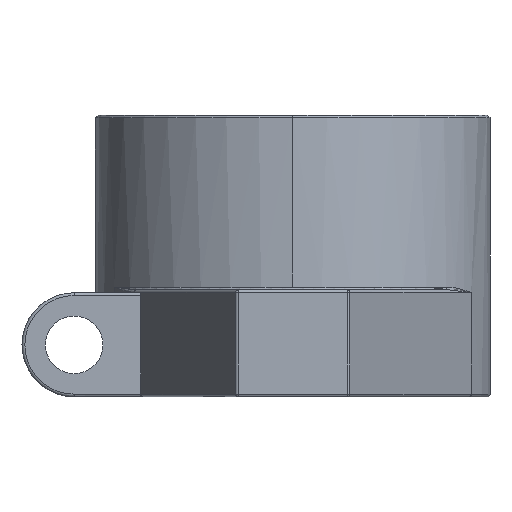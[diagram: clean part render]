
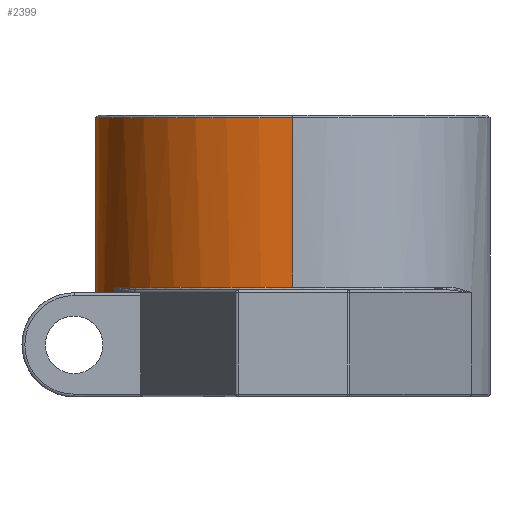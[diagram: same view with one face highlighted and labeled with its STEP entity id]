
A CAD part, left-side view. The second image highlights one B-rep face of the part: STEP entity #2399.
In plain terms, the highlighted cylindrical face has radius 35 mm (diameter 70 mm), a partial arc.
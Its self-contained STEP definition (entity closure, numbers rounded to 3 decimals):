
#135 = VECTOR ( 'NONE', #1907, 1000. ) ;
#182 = ORIENTED_EDGE ( 'NONE', *, *, #1619, .T. ) ;
#249 = VECTOR ( 'NONE', #274, 1000. ) ;
#273 = EDGE_LOOP ( 'NONE', ( #1935, #182, #901, #918, #2214, #690 ) ) ;
#274 = DIRECTION ( 'NONE',  ( 0., 0., -1. ) ) ;
#286 = DIRECTION ( 'NONE',  ( -1., 0., 0. ) ) ;
#298 = CARTESIAN_POINT ( 'NONE',  ( 0., 0., 19.5 ) ) ;
#326 = DIRECTION ( 'NONE',  ( 1., 0., 0. ) ) ;
#339 = DIRECTION ( 'NONE',  ( 0., 0., 1. ) ) ;
#365 = DIRECTION ( 'NONE',  ( 0., -1., 0. ) ) ;
#371 = EDGE_CURVE ( 'NONE', #2237, #1760, #1918, .T. ) ;
#481 = DIRECTION ( 'NONE',  ( 0., 0., -1. ) ) ;
#568 = CIRCLE ( 'NONE', #1284, 35. ) ;
#593 = DIRECTION ( 'NONE',  ( 0., 0., 1. ) ) ;
#599 = LINE ( 'NONE', #2329, #2591 ) ;
#674 = DIRECTION ( 'NONE',  ( 0., 0., -1. ) ) ;
#685 = DIRECTION ( 'NONE',  ( 1., 0., 0. ) ) ;
#690 = ORIENTED_EDGE ( 'NONE', *, *, #991, .T. ) ;
#758 = AXIS2_PLACEMENT_3D ( 'NONE', #2623, #481, #286 ) ;
#786 = CARTESIAN_POINT ( 'NONE',  ( -1., 34.986, 49.5 ) ) ;
#860 = CARTESIAN_POINT ( 'NONE',  ( -1., 34.986, 18.5 ) ) ;
#900 = CARTESIAN_POINT ( 'NONE',  ( -35., 0., 49.5 ) ) ;
#901 = ORIENTED_EDGE ( 'NONE', *, *, #2572, .F. ) ;
#918 = ORIENTED_EDGE ( 'NONE', *, *, #1504, .T. ) ;
#991 = EDGE_CURVE ( 'NONE', #2237, #1849, #2301, .T. ) ;
#1038 = CARTESIAN_POINT ( 'NONE',  ( -14.889, 31.675, 19. ) ) ;
#1228 = VERTEX_POINT ( 'NONE', #900 ) ;
#1284 = AXIS2_PLACEMENT_3D ( 'NONE', #2145, #593, #365 ) ;
#1346 = CARTESIAN_POINT ( 'NONE',  ( -35., 0., 50. ) ) ;
#1423 = CIRCLE ( 'NONE', #1468, 35. ) ;
#1468 = AXIS2_PLACEMENT_3D ( 'NONE', #2163, #674, #685 ) ;
#1504 = EDGE_CURVE ( 'NONE', #2530, #1760, #568, .T. ) ;
#1575 = CARTESIAN_POINT ( 'NONE',  ( -14.889, 31.675, 18.5 ) ) ;
#1619 = EDGE_CURVE ( 'NONE', #1228, #1857, #1423, .T. ) ;
#1635 = EDGE_CURVE ( 'NONE', #1228, #1849, #2401, .T. ) ;
#1760 = VERTEX_POINT ( 'NONE', #1575 ) ;
#1849 = VERTEX_POINT ( 'NONE', #2715 ) ;
#1857 = VERTEX_POINT ( 'NONE', #786 ) ;
#1907 = DIRECTION ( 'NONE',  ( 0., 0., -1. ) ) ;
#1913 = DIRECTION ( 'NONE',  ( 0., 0., 1. ) ) ;
#1918 = LINE ( 'NONE', #1038, #135 ) ;
#1935 = ORIENTED_EDGE ( 'NONE', *, *, #1635, .F. ) ;
#2145 = CARTESIAN_POINT ( 'NONE',  ( 0., 0., 18.5 ) ) ;
#2163 = CARTESIAN_POINT ( 'NONE',  ( 0., 0., 49.5 ) ) ;
#2187 = CYLINDRICAL_SURFACE ( 'NONE', #758, 35. ) ;
#2214 = ORIENTED_EDGE ( 'NONE', *, *, #371, .F. ) ;
#2215 = FACE_OUTER_BOUND ( 'NONE', #273, .T. ) ;
#2237 = VERTEX_POINT ( 'NONE', #2581 ) ;
#2301 = CIRCLE ( 'NONE', #2780, 35. ) ;
#2329 = CARTESIAN_POINT ( 'NONE',  ( -1., 34.986, 50. ) ) ;
#2399 = ADVANCED_FACE ( 'NONE', ( #2215 ), #2187, .T. ) ;
#2401 = LINE ( 'NONE', #1346, #249 ) ;
#2530 = VERTEX_POINT ( 'NONE', #860 ) ;
#2572 = EDGE_CURVE ( 'NONE', #2530, #1857, #599, .T. ) ;
#2581 = CARTESIAN_POINT ( 'NONE',  ( -14.889, 31.675, 19.5 ) ) ;
#2591 = VECTOR ( 'NONE', #1913, 1000. ) ;
#2623 = CARTESIAN_POINT ( 'NONE',  ( 0., 0., 50. ) ) ;
#2715 = CARTESIAN_POINT ( 'NONE',  ( -35., 0., 19.5 ) ) ;
#2780 = AXIS2_PLACEMENT_3D ( 'NONE', #298, #339, #326 ) ;
